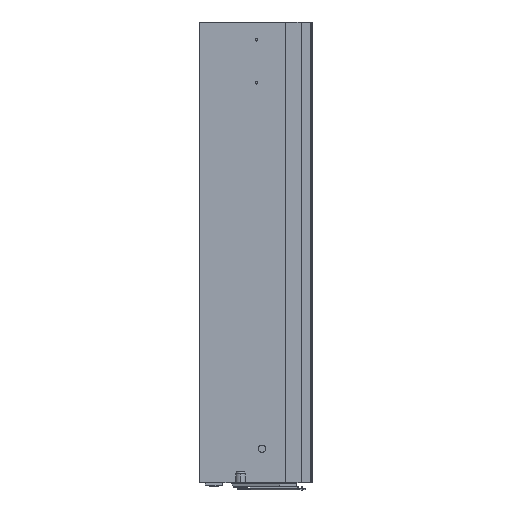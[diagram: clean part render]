
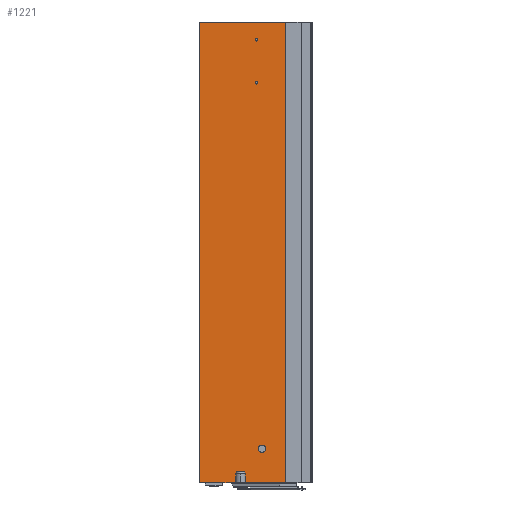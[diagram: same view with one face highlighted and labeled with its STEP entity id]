
A CAD part, left-side view. The second image highlights one B-rep face of the part: STEP entity #1221.
In plain terms, the highlighted planar face has unit normal (-1, 0, 0).
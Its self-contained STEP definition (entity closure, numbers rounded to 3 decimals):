
#66 = VERTEX_POINT ( 'NONE', #1938 ) ;
#73 = CARTESIAN_POINT ( 'NONE',  ( -10.5, 91.5, 0. ) ) ;
#86 = DIRECTION ( 'NONE',  ( 0., 1., 0. ) ) ;
#137 = VERTEX_POINT ( 'NONE', #3319 ) ;
#179 = VERTEX_POINT ( 'NONE', #3330 ) ;
#235 = DIRECTION ( 'NONE',  ( 0., 1., 0. ) ) ;
#247 = EDGE_CURVE ( 'NONE', #3333, #316, #2562, .T. ) ;
#267 = DIRECTION ( 'NONE',  ( 0., 1., 0. ) ) ;
#273 = AXIS2_PLACEMENT_3D ( 'NONE', #73, #1716, #86 ) ;
#316 = VERTEX_POINT ( 'NONE', #1239 ) ;
#335 = LINE ( 'NONE', #1636, #2404 ) ;
#379 = FACE_BOUND ( 'NONE', #1070, .T. ) ;
#390 = VERTEX_POINT ( 'NONE', #723 ) ;
#424 = CIRCLE ( 'NONE', #1141, 1.397 ) ;
#425 = EDGE_CURVE ( 'NONE', #137, #2018, #1197, .T. ) ;
#462 = DIRECTION ( 'NONE',  ( -1., 0., 0. ) ) ;
#502 = CIRCLE ( 'NONE', #1036, 1.397 ) ;
#506 = ORIENTED_EDGE ( 'NONE', *, *, #2615, .F. ) ;
#540 = AXIS2_PLACEMENT_3D ( 'NONE', #2091, #462, #2354 ) ;
#643 = EDGE_LOOP ( 'NONE', ( #3394, #2862, #2370, #3229, #3404 ) ) ;
#682 = CIRCLE ( 'NONE', #540, 1.397 ) ;
#723 = CARTESIAN_POINT ( 'NONE',  ( -10.5, 0., 0. ) ) ;
#742 = EDGE_LOOP ( 'NONE', ( #3264, #2458 ) ) ;
#900 = CARTESIAN_POINT ( 'NONE',  ( -10.5, 30.85, -18.85 ) ) ;
#908 = EDGE_LOOP ( 'NONE', ( #2071, #506 ) ) ;
#921 = VERTEX_POINT ( 'NONE', #2892 ) ;
#1036 = AXIS2_PLACEMENT_3D ( 'NONE', #900, #2785, #1173 ) ;
#1045 = EDGE_CURVE ( 'NONE', #2018, #1328, #335, .T. ) ;
#1070 = EDGE_LOOP ( 'NONE', ( #2424, #2922 ) ) ;
#1124 = DIRECTION ( 'NONE',  ( 1., 0., 0. ) ) ;
#1131 = EDGE_CURVE ( 'NONE', #316, #3333, #3505, .T. ) ;
#1141 = AXIS2_PLACEMENT_3D ( 'NONE', #3465, #1860, #235 ) ;
#1173 = DIRECTION ( 'NONE',  ( 0., 1., 0. ) ) ;
#1197 = LINE ( 'NONE', #1561, #2533 ) ;
#1221 = ADVANCED_FACE ( 'NONE', ( #3169, #3254, #2441, #379 ), #3036, .F. ) ;
#1239 = CARTESIAN_POINT ( 'NONE',  ( -10.5, 28.9, -454. ) ) ;
#1275 = CARTESIAN_POINT ( 'NONE',  ( -10.5, 21.1, -454. ) ) ;
#1322 = CARTESIAN_POINT ( 'NONE',  ( -10.5, 29.453, -64.618 ) ) ;
#1328 = VERTEX_POINT ( 'NONE', #1529 ) ;
#1401 = AXIS2_PLACEMENT_3D ( 'NONE', #3067, #1478, #3343 ) ;
#1418 = LINE ( 'NONE', #2857, #2294 ) ;
#1478 = DIRECTION ( 'NONE',  ( -1., 0., 0. ) ) ;
#1492 = DIRECTION ( 'NONE',  ( 1., 0., 0. ) ) ;
#1528 = DIRECTION ( 'NONE',  ( 0., -1., 0. ) ) ;
#1529 = CARTESIAN_POINT ( 'NONE',  ( -10.5, 91.5, -490. ) ) ;
#1549 = DIRECTION ( 'NONE',  ( 0., 0., -1. ) ) ;
#1561 = CARTESIAN_POINT ( 'NONE',  ( -10.5, 91.9, -490. ) ) ;
#1574 = CARTESIAN_POINT ( 'NONE',  ( -10.5, 32.247, -18.85 ) ) ;
#1582 = LINE ( 'NONE', #1777, #3255 ) ;
#1636 = CARTESIAN_POINT ( 'NONE',  ( -10.5, 91.9, -490. ) ) ;
#1716 = DIRECTION ( 'NONE',  ( 1., 0., 0. ) ) ;
#1777 = CARTESIAN_POINT ( 'NONE',  ( -10.5, 91.5, 0. ) ) ;
#1796 = DIRECTION ( 'NONE',  ( 0., 0., -1. ) ) ;
#1815 = AXIS2_PLACEMENT_3D ( 'NONE', #2734, #1124, #3002 ) ;
#1847 = EDGE_CURVE ( 'NONE', #66, #1328, #1418, .T. ) ;
#1860 = DIRECTION ( 'NONE',  ( -1., 0., 0. ) ) ;
#1931 = EDGE_CURVE ( 'NONE', #2060, #921, #682, .T. ) ;
#1938 = CARTESIAN_POINT ( 'NONE',  ( -10.5, 91.5, 0. ) ) ;
#1976 = VERTEX_POINT ( 'NONE', #1574 ) ;
#2018 = VERTEX_POINT ( 'NONE', #2377 ) ;
#2060 = VERTEX_POINT ( 'NONE', #1322 ) ;
#2071 = ORIENTED_EDGE ( 'NONE', *, *, #2568, .F. ) ;
#2091 = CARTESIAN_POINT ( 'NONE',  ( -10.5, 30.85, -64.618 ) ) ;
#2294 = VECTOR ( 'NONE', #1796, 1000. ) ;
#2354 = DIRECTION ( 'NONE',  ( 0., 1., 0. ) ) ;
#2370 = ORIENTED_EDGE ( 'NONE', *, *, #425, .F. ) ;
#2377 = CARTESIAN_POINT ( 'NONE',  ( -10.5, 58., -490. ) ) ;
#2404 = VECTOR ( 'NONE', #267, 1000. ) ;
#2417 = LINE ( 'NONE', #2609, #3206 ) ;
#2424 = ORIENTED_EDGE ( 'NONE', *, *, #1131, .T. ) ;
#2441 = FACE_BOUND ( 'NONE', #742, .T. ) ;
#2458 = ORIENTED_EDGE ( 'NONE', *, *, #1931, .F. ) ;
#2533 = VECTOR ( 'NONE', #2618, 1000. ) ;
#2562 = CIRCLE ( 'NONE', #2786, 3.9 ) ;
#2568 = EDGE_CURVE ( 'NONE', #1976, #179, #502, .T. ) ;
#2609 = CARTESIAN_POINT ( 'NONE',  ( -10.5, 0., 0. ) ) ;
#2615 = EDGE_CURVE ( 'NONE', #179, #1976, #3093, .T. ) ;
#2618 = DIRECTION ( 'NONE',  ( 0., 1., 0. ) ) ;
#2708 = EDGE_CURVE ( 'NONE', #66, #390, #1582, .T. ) ;
#2734 = CARTESIAN_POINT ( 'NONE',  ( -10.5, 25., -454. ) ) ;
#2785 = DIRECTION ( 'NONE',  ( -1., 0., 0. ) ) ;
#2786 = AXIS2_PLACEMENT_3D ( 'NONE', #3089, #1492, #3365 ) ;
#2857 = CARTESIAN_POINT ( 'NONE',  ( -10.5, 91.5, 0. ) ) ;
#2862 = ORIENTED_EDGE ( 'NONE', *, *, #1045, .F. ) ;
#2892 = CARTESIAN_POINT ( 'NONE',  ( -10.5, 32.247, -64.618 ) ) ;
#2911 = EDGE_CURVE ( 'NONE', #921, #2060, #424, .T. ) ;
#2922 = ORIENTED_EDGE ( 'NONE', *, *, #247, .T. ) ;
#3002 = DIRECTION ( 'NONE',  ( 0., 1., 0. ) ) ;
#3036 = PLANE ( 'NONE',  #273 ) ;
#3067 = CARTESIAN_POINT ( 'NONE',  ( -10.5, 30.85, -18.85 ) ) ;
#3089 = CARTESIAN_POINT ( 'NONE',  ( -10.5, 25., -454. ) ) ;
#3093 = CIRCLE ( 'NONE', #1401, 1.397 ) ;
#3169 = FACE_BOUND ( 'NONE', #908, .T. ) ;
#3206 = VECTOR ( 'NONE', #1549, 1000. ) ;
#3229 = ORIENTED_EDGE ( 'NONE', *, *, #3332, .F. ) ;
#3254 = FACE_OUTER_BOUND ( 'NONE', #643, .T. ) ;
#3255 = VECTOR ( 'NONE', #1528, 1000. ) ;
#3264 = ORIENTED_EDGE ( 'NONE', *, *, #2911, .F. ) ;
#3319 = CARTESIAN_POINT ( 'NONE',  ( -10.5, 0., -490. ) ) ;
#3330 = CARTESIAN_POINT ( 'NONE',  ( -10.5, 29.453, -18.85 ) ) ;
#3332 = EDGE_CURVE ( 'NONE', #390, #137, #2417, .T. ) ;
#3333 = VERTEX_POINT ( 'NONE', #1275 ) ;
#3343 = DIRECTION ( 'NONE',  ( 0., 1., 0. ) ) ;
#3365 = DIRECTION ( 'NONE',  ( 0., 1., 0. ) ) ;
#3394 = ORIENTED_EDGE ( 'NONE', *, *, #1847, .T. ) ;
#3404 = ORIENTED_EDGE ( 'NONE', *, *, #2708, .F. ) ;
#3465 = CARTESIAN_POINT ( 'NONE',  ( -10.5, 30.85, -64.618 ) ) ;
#3505 = CIRCLE ( 'NONE', #1815, 3.9 ) ;
